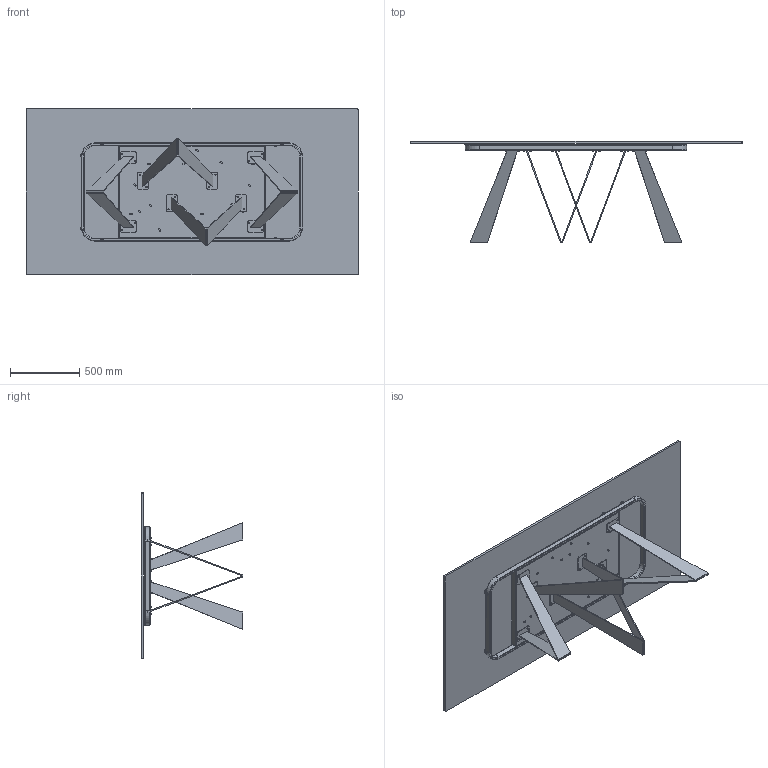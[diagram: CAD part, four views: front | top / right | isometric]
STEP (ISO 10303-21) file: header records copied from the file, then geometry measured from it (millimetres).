
FILE_DESCRIPTION (( 'STEP AP203' ), '1' );
FILE_NAME ('NO23G_Noa_240x120x75h_Glass Rectangular.STEP', '2024-08-07T14:15:14', ( '' ), ( '' ), 'SwSTEP 2.0', 'SolidWorks 2022', '' );
FILE_SCHEMA (( 'CONFIG_CONTROL_DESIGN' ));
Length unit declared in the file: millimetre
Products named in the file (14): M8xXXmm_M8x16mm; TTAV06_02-01-VASSOIO TAVOLI PLAI ONDA NOA 240; NOA000000-00-NOA BASE GREZZA; NOA000001GMB-00-Piastra Principale gamba NOA_Piatto SX; NOA000001GMB-00-Piastra Principale gamba NOA_Piatto DX; MAPPA; Assieme NOA var 3_noa 200-240; C2XCRXX-00-Piani Rettangolari Cristallo_23 2400x1200; TTAV06-01-TELAIO X TAVOLI PLAI ONDA NOA 240cm_TTAV06; TTAV06_01-01-STRUTTURA X TAVOLI PLAI ONDA NOA 240_Default<A macchina>; 434070-00-PIEDINO TPV GOMMA NERO D. 30x8max18; rondella M8_8X16; NOA000001PTRS-00-Piastra rettangoalre con fori; NO23G_Noa_240x120x75h_Glass Rectangular
Assembly tree (51 placements, depth 4):
  MAPPA
  NO23G_Noa_240x120x75h_Glass Rectangular
    C2XCRXX-00-Piani Rettangolari Cristallo_23 2400x1200
    Assieme NOA var 3_noa 200-240
      NOA000000-00-NOA BASE GREZZA  x4
        NOA000001GMB-00-Piastra Principale gamba NOA_Piatto SX
        NOA000001GMB-00-Piastra Principale gamba NOA_Piatto DX
        NOA000001PTRS-00-Piastra rettangoalre con fori
      TTAV06-01-TELAIO X TAVOLI PLAI ONDA NOA 240cm_TTAV06
        TTAV06_02-01-VASSOIO TAVOLI PLAI ONDA NOA 240
        TTAV06_01-01-STRUTTURA X TAVOLI PLAI ONDA NOA 240_Default<A macchina>
    M8xXXmm_M8x16mm  x16
    rondella M8_8X16  x16
    434070-00-PIEDINO TPV GOMMA NERO D. 30x8max18  x6
Bounding box: 2400 x 734.8 x 1200 mm (x, y, z)
Volume: 52367446.4 mm3; surface area: 9911183.8 mm2
Topology: 70 solids, 70 shells, 1476 faces, 3372 edges, 2020 vertices
Faces by surface type: plane 588, cylinder 384, cone 256, torus 248
Entity records: 20196 total; most frequent: DIRECTION 3293, CARTESIAN_POINT 3051, ORIENTED_EDGE 2892, EDGE_CURVE 1446, AXIS2_PLACEMENT_3D 1232, VERTEX_POINT 904, LINE 829, VECTOR 829
